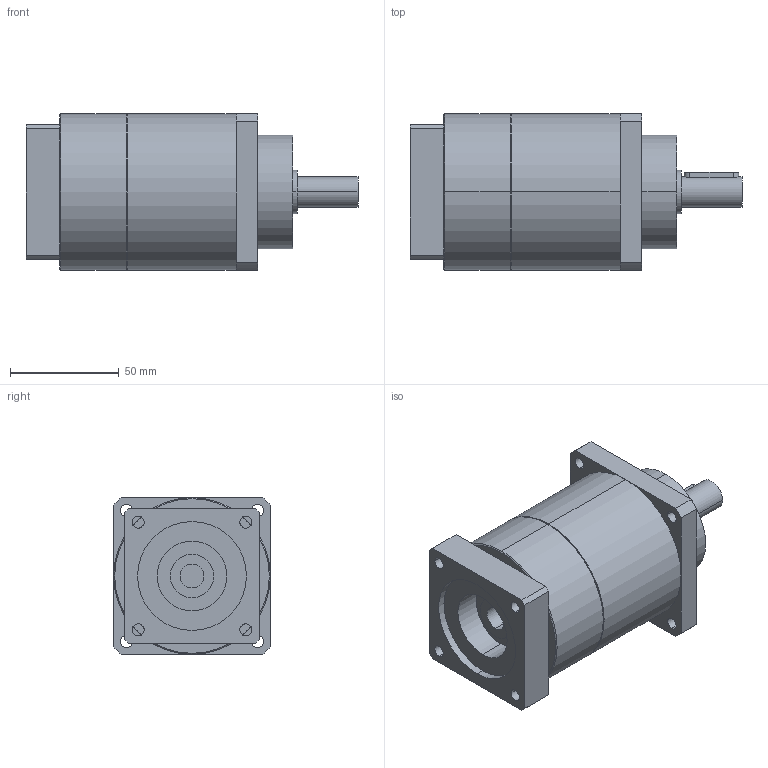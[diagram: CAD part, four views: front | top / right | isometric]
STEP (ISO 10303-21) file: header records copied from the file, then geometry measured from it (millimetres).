
FILE_DESCRIPTION(('CoCreate Modeling STEP Export'),'2;1');
FILE_NAME('GPT75_ig-9-12-16-20-25-28-35-40-50-70-100_14_B5T_11_P23.stp','2014-08-27T13:34:39',(''),(''),'CoCreate Modeling STEP processor for AP214 (Solid Model)','CoCreate Modeling 16.00C 25-Feb-2009 (C) Parametric Technology GmbH','');
FILE_SCHEMA(('AUTOMOTIVE_DESIGN { 1 0 10303 214 1 1 1 1 }'));
Length unit declared in the file: millimetre
Products named in the file (2): GPT75_ig-9-12-16-20-25-28-35-40-50-70-100_14_B5T_11_P23
Assembly tree (1 placements, depth 2):
  GPT75_ig-9-12-16-20-25-28-35-40-50-70-100_14_B5T_11_P23
    GPT75_ig-9-12-16-20-25-28-35-40-50-70-100_14_B5T_11_P23
Bounding box: 152.5 x 72 x 72 mm (x, y, z)
Volume: 458859.3 mm3; surface area: 44772.6 mm2
Topology: 1 solids, 1 shells, 88 faces, 226 edges, 145 vertices
Faces by surface type: cylinder 46, plane 38, cone 4
Entity records: 2676 total; most frequent: CARTESIAN_POINT 744, ORIENTED_EDGE 452, DIRECTION 334, EDGE_CURVE 226, VERTEX_POINT 145, AXIS2_PLACEMENT_3D 123, EDGE_LOOP 109, VECTOR 88
